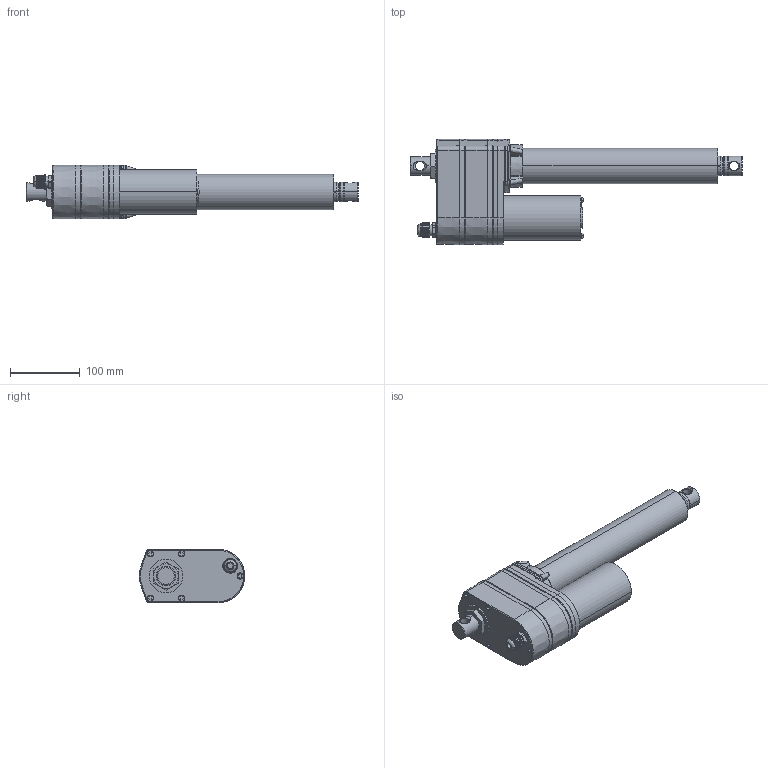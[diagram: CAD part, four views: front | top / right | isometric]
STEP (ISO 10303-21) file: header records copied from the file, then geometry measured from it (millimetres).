
FILE_DESCRIPTION((''),' ');
FILE_NAME('DSZY3-B-153-LT-LT_POT_2011_08_05.stp',' ',('Lindner'),('MSW Motion Control GmbH'),' ','ACIS 14.0',' ');
FILE_SCHEMA(('automotive_design'));
Length unit declared in the file: inch
Products named in the file (21): DSZY3-IIBL24_ASM|Next assembly relationship#01_ASM|Next assembly relationship#19;19; DSZY3-IIBL24_ASM|Next assembly relationship#01_ASM|Next assembly relationship#20;20; DSZY3-IIBL24_ASM|Next assembly relationship#01_ASM|Next assembly relationship#21;21; DSZY3-IBL24_ASM|Next assembly relationship#01_ASM|Next assembly relationship#48;48; DSZY3-IIBL24_ASM|Next assembly relationship#02-1_ASM|Next assembly relationship#85;85; DSZY3-IBL24_ASM|Next assembly relationship#02-1_ASM|Next assembly relationship#91;91; DSZY3-IIBL24_ASM|Next assembly relationship#02-1_ASM|Next assembly relationship#86_BODY_M12;86_BODY_M12; DSZY3-IIBL24_ASM|Next assembly relationship#02-1_ASM|Next assembly relationship#87;87; DSZY3-IIBL24_ASM|Next assembly relationship#02-1_ASM|Next assembly relationship#89;89; DSZY3-IIBL24_ASM|Next assembly relationship#02-1_ASM|Next assembly relationship#91;91; DSZY3-IIBL24_ASM|Next assembly relationship#49;49; DSZY3-IIBL24_ASM|Next assembly relationship#48;48; DSZY3-IIBL24_ASM|Next assembly relationship#44;44; DSZY3-IBL24_ASM|Next assembly relationship#42_A;42_A; DSZY3-IIBL24_ASM|Next assembly relationship#7_833;7_833; DSZY3-IIBL24_ASM|Next assembly relationship#8;8; DSZY3-IBL24_ASM|Next assembly relationship#6;6; DSZY3-IIBL24_ASM|Next assembly relationship#4;4
Bounding box: 475.7 x 151.65 x 77.15 mm (x, y, z)
Volume: 918817.7 mm3; surface area: 347302.1 mm2
Topology: 21 solids, 21 shells, 1036 faces, 2579 edges, 1604 vertices
Faces by surface type: plane 369, cylinder 313, cone 173, bspline 92, torus 79, sphere 10
Entity records: 44432 total; most frequent: CARTESIAN_POINT 11157, DIRECTION 5158, ORIENTED_EDGE 5118, EDGE_CURVE 2559, AXIS2_PLACEMENT_3D 2001, VERTEX_POINT 1604, EDGE_LOOP 1163, LINE 1156
